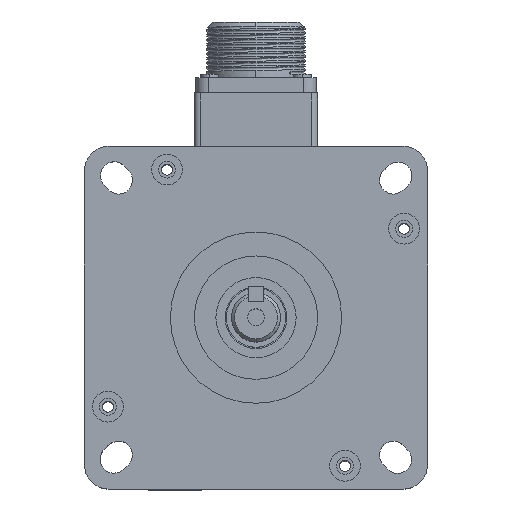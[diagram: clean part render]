
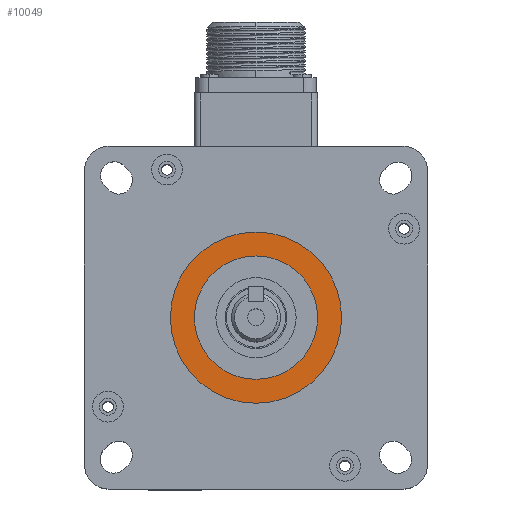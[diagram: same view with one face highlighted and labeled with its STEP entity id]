
A CAD part, top view. The second image highlights one B-rep face of the part: STEP entity #10049.
In plain terms, the highlighted planar face has unit normal (0, 0, 1).
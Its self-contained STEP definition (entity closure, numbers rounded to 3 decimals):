
#508 = CIRCLE ( 'NONE', #2209, 27.75 ) ;
#2209 = AXIS2_PLACEMENT_3D ( 'NONE', #22702, #22703, #22704 ) ;
#3345 = CARTESIAN_POINT ( 'NONE',  ( -79.866, 44.673, 78.1 ) ) ;
#3346 = DIRECTION ( 'NONE',  ( 0., 0., 1. ) ) ;
#3347 = DIRECTION ( 'NONE',  ( 1., 0., 0. ) ) ;
#10049 = ADVANCED_FACE ( 'NONE', ( #44263, #44267 ), #44268, .T. ) ;
#10851 = CARTESIAN_POINT ( 'NONE',  ( -79.866, 44.673, 78.1 ) ) ;
#10852 = DIRECTION ( 'NONE',  ( 0., 0., 1. ) ) ;
#10853 = DIRECTION ( 'NONE',  ( 1., 0., 0. ) ) ;
#14070 = CARTESIAN_POINT ( 'NONE',  ( -52.116, 44.673, 78.1 ) ) ;
#14394 = CARTESIAN_POINT ( 'NONE',  ( -99.866, 44.673, 78.1 ) ) ;
#14550 = CARTESIAN_POINT ( 'NONE',  ( -107.616, 44.673, 78.1 ) ) ;
#14710 = CARTESIAN_POINT ( 'NONE',  ( -59.866, 44.673, 78.1 ) ) ;
#14964 = CIRCLE ( 'NONE', #14967, 27.75 ) ;
#14967 = AXIS2_PLACEMENT_3D ( 'NONE', #3345, #3346, #3347 ) ;
#15010 = AXIS2_PLACEMENT_3D ( 'NONE', #10851, #10852, #10853 ) ;
#15012 = CIRCLE ( 'NONE', #15010, 20. ) ;
#18582 = ORIENTED_EDGE ( 'NONE', *, *, #40200, .F. ) ;
#19499 = ORIENTED_EDGE ( 'NONE', *, *, #30981, .T. ) ;
#21172 = EDGE_LOOP ( 'NONE', ( #24945, #18582 ) ) ;
#22702 = CARTESIAN_POINT ( 'NONE',  ( -79.866, 44.673, 78.1 ) ) ;
#22703 = DIRECTION ( 'NONE',  ( 0., 0., 1. ) ) ;
#22704 = DIRECTION ( 'NONE',  ( 1., 0., 0. ) ) ;
#23296 = AXIS2_PLACEMENT_3D ( 'NONE', #44256, #44269, #44270 ) ;
#24945 = ORIENTED_EDGE ( 'NONE', *, *, #39212, .F. ) ;
#25292 = ORIENTED_EDGE ( 'NONE', *, *, #40123, .T. ) ;
#29696 = AXIS2_PLACEMENT_3D ( 'NONE', #40732, #40734, #40736 ) ;
#29719 = CIRCLE ( 'NONE', #29696, 20. ) ;
#30981 = EDGE_CURVE ( 'NONE', #34425, #33945, #508, .T. ) ;
#33945 = VERTEX_POINT ( 'NONE', #14070 ) ;
#34269 = VERTEX_POINT ( 'NONE', #14394 ) ;
#34425 = VERTEX_POINT ( 'NONE', #14550 ) ;
#34585 = VERTEX_POINT ( 'NONE', #14710 ) ;
#38604 = EDGE_LOOP ( 'NONE', ( #19499, #25292 ) ) ;
#39212 = EDGE_CURVE ( 'NONE', #34269, #34585, #29719, .T. ) ;
#40123 = EDGE_CURVE ( 'NONE', #33945, #34425, #14964, .T. ) ;
#40200 = EDGE_CURVE ( 'NONE', #34585, #34269, #15012, .T. ) ;
#40732 = CARTESIAN_POINT ( 'NONE',  ( -79.866, 44.673, 78.1 ) ) ;
#40734 = DIRECTION ( 'NONE',  ( 0., 0., 1. ) ) ;
#40736 = DIRECTION ( 'NONE',  ( 1., 0., 0. ) ) ;
#44256 = CARTESIAN_POINT ( 'NONE',  ( -79.866, 44.673, 78.1 ) ) ;
#44263 = FACE_OUTER_BOUND ( 'NONE', #38604, .T. ) ;
#44267 = FACE_BOUND ( 'NONE', #21172, .T. ) ;
#44268 = PLANE ( 'NONE',  #23296 ) ;
#44269 = DIRECTION ( 'NONE',  ( 0., 0., 1. ) ) ;
#44270 = DIRECTION ( 'NONE',  ( 1., 0., 0. ) ) ;
